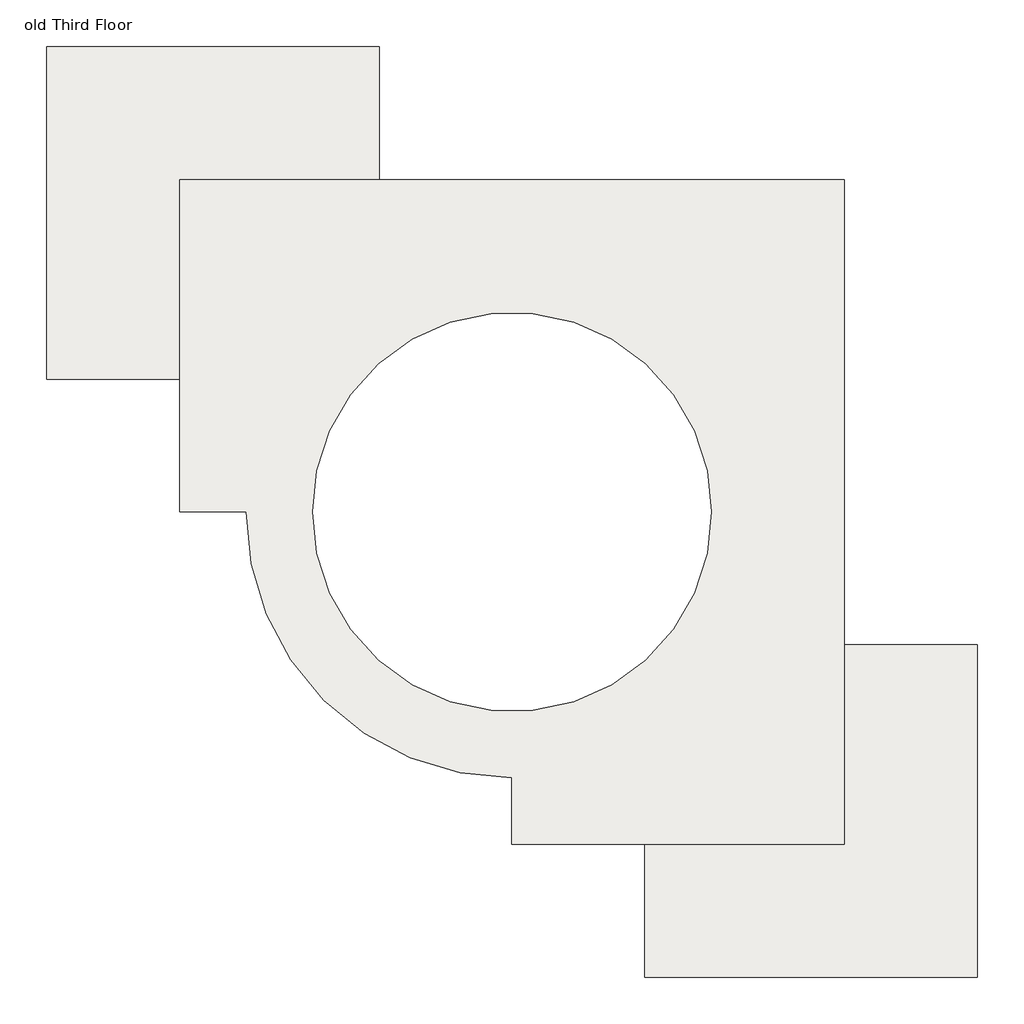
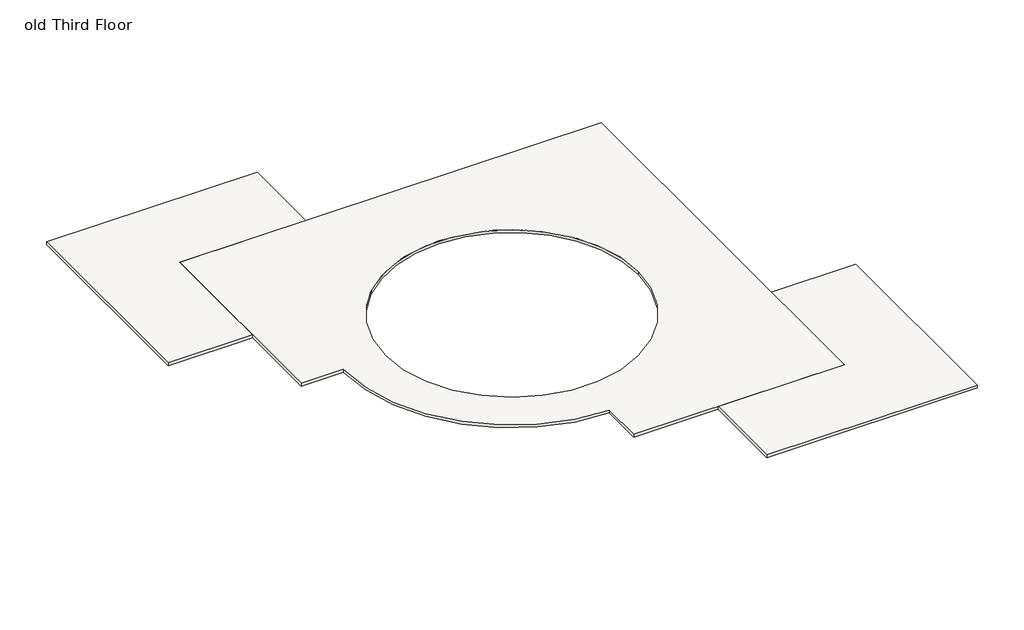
# One storey: 2 slabs.
"""IFC4 building model written with IfcOpenShell, lengths in millimetres."""

from ifc_helpers import new_model, si_unit, point, frame, frame_2d, origin, place, context, project, spatial, polyline, circle_curve, trimmed, segment, composite_curve, outline, extrude, element, save

model = new_model("IFC4")

# Units and contexts
model_context = context("Model", 3, world=origin())
ifc_project = project(units=[si_unit("LENGTHUNIT", "METRE", prefix="MILLI")], contexts=[model_context])

# Site, building, storey
site = spatial("IfcSite", under=ifc_project)
building = spatial("IfcBuilding", under=site)
storey = spatial("IfcBuildingStorey", under=building, Name="old Third Floor", Elevation=6096.0)

# Slabs
placement = place(None, origin())
element("IfcSlab", 1, ObjectType="LW Concrete on Metal Deck", at=placement, inside=storey, context=model_context, shape_type="SweptSolid", body=[
    extrude(outline(composite_curve([segment(polyline([(7308.8955952, 7299.8851347), (7308.8955952, -7940.1148653), (-311.1044048, -7940.1148653), (-311.1044048, -6416.1148653)]), True, "CONTINUOUS"), segment(trimmed(circle_curve(frame_2d((-311.1044048, -320.1148653)), 6096.0), [point((-311.1044048, -6416.1148653))], [point((-6407.1044048, -320.1148653))], False, "CARTESIAN"), True, "CONTINUOUS"), segment(polyline([(-6407.1044048, -320.1148653), (-7931.1044048, -320.1148653), (-7931.1044048, 7299.8851347), (7308.8955952, 7299.8851347)]), True, "CONTINUOUS")], self_intersect=False), holes=[composite_curve([segment(trimmed(circle_curve(frame_2d((-311.1044048, -320.1148653)), 4572.0), [point((4260.8955952, -320.1148653))], [point((-4883.1044048, -320.1148653))], True, "CARTESIAN"), True, "CONTINUOUS"), segment(trimmed(circle_curve(frame_2d((-311.1044048, -320.1148653)), 4572.0), [point((-4883.1044048, -320.1148653))], [point((4260.8955952, -320.1148653))], True, "CARTESIAN"), True, "CONTINUOUS")], self_intersect=False)]), frame((0.0, 0.0, 5991.225), z_axis=(0.0, 0.0, 1.0), x_axis=(1.0, 0.0, 0.0)), (0.0, 0.0, 1.0), 104.775),
])
element("IfcSlab", 2, ObjectType="LW Concrete on Metal Deck", at=placement, inside=storey, context=model_context, shape_type="SweptSolid", body=[
    extrude(outline(polyline([(-3359.1044048, 10347.8851347), (-3359.1044048, 7299.8851347), (-7931.1044048, 7299.8851347), (-7931.1044048, 2727.8851347), (-10979.1044048, 2727.8851347), (-10979.1044048, 10347.8851347), (-3359.1044048, 10347.8851347)])), frame((0.0, 0.0, 5991.225), z_axis=(0.0, 0.0, 1.0), x_axis=(1.0, 0.0, 0.0)), (0.0, 0.0, 1.0), 104.775),
    extrude(outline(polyline([(10356.8955952, -3368.1148653), (10356.8955952, -10988.1148653), (2736.8955952, -10988.1148653), (2736.8955952, -7940.1148653), (7308.8955952, -7940.1148653), (7308.8955952, -3368.1148653), (10356.8955952, -3368.1148653)])), frame((0.0, 0.0, 5991.225), z_axis=(0.0, 0.0, 1.0), x_axis=(1.0, 0.0, 0.0)), (0.0, 0.0, 1.0), 104.775),
])

save(model, "model.ifc")
